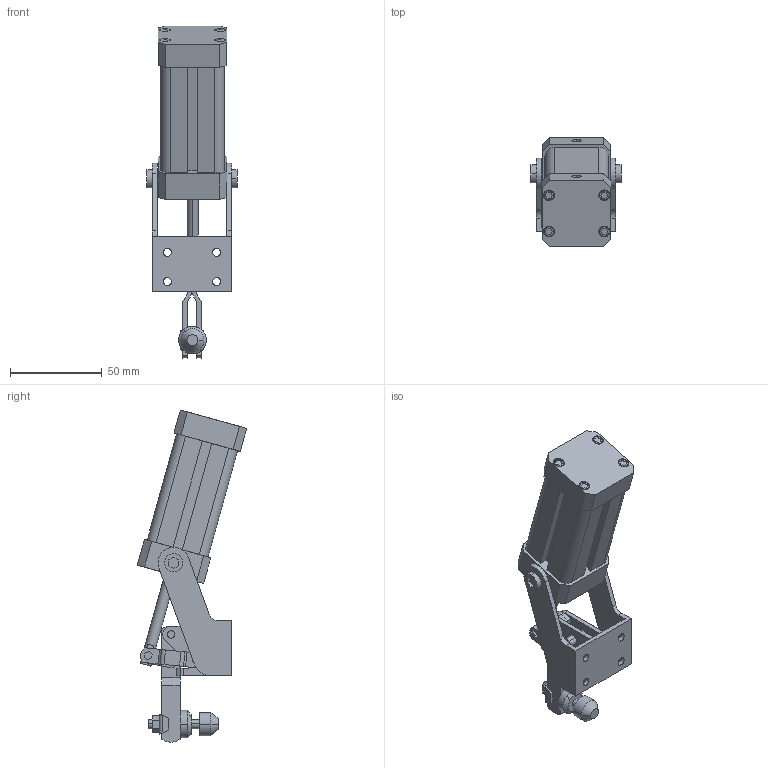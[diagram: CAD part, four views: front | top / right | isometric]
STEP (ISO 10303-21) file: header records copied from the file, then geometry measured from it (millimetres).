
FILE_DESCRIPTION (( 'STEP AP214' ), '1' );
FILE_NAME ('620k-1 Montaj.STEP', '2017-05-03T08:37:22', ( '' ), ( '' ), 'SwSTEP 2.0', 'SolidWorks 2015', '' );
FILE_SCHEMA (( 'AUTOMOTIVE_DESIGN' ));
Length unit declared in the file: millimetre
Products named in the file (19): 620k-1-10 lastik; 620k-1-13 ozel somun; 620k-1-18 somun; 620k-1-19 u papuc; 620k-1-5 civata; 620k-1-2 baski lamasi; 620k-1-9 halka; 620k-1-15 Ayak; 620k-1-1 ayak; 620k-1-16 pramatik ayak tablasi; 620k-1 Montaj; 620k-1; 620k-1-28 Part2; 620k-1-26 Tirnak; 620k-1-11 mil; 620k-1-6 civata; 620k-1-20 yarikli pim; 620k-1-7 civata; 620k-1-12 montaj percini
Assembly tree (22 placements, depth 2):
  620k-1 Montaj
    620k-1-16 pramatik ayak tablasi
    620k-1-1 ayak
    620k-1-15 Ayak
    620k-1-9 halka
    620k-1-2 baski lamasi  x2
    620k-1-5 civata
    620k-1-19 u papuc
    620k-1-18 somun
    620k-1-13 ozel somun
    620k-1-10 lastik
    620k-1-12 montaj percini
    620k-1-7 civata  x2
    620k-1-20 yarikli pim
    620k-1-6 civata
    620k-1-11 mil
    620k-1-26 Tirnak  x2
    620k-1-28 Part2  x2
    620k-1
Bounding box: 49 x 59.44 x 180.65 mm (x, y, z)
Volume: 127116.2 mm3; surface area: 44497.2 mm2
Topology: 22 solids, 30 shells, 697 faces, 1731 edges, 1152 vertices
Faces by surface type: plane 429, cylinder 212, bspline 48, cone 8
Entity records: 23669 total; most frequent: CARTESIAN_POINT 6086, ORIENTED_EDGE 3108, DIRECTION 3038, EDGE_CURVE 1554, LINE 1074, VECTOR 1074, VERTEX_POINT 1034, AXIS2_PLACEMENT_3D 982
